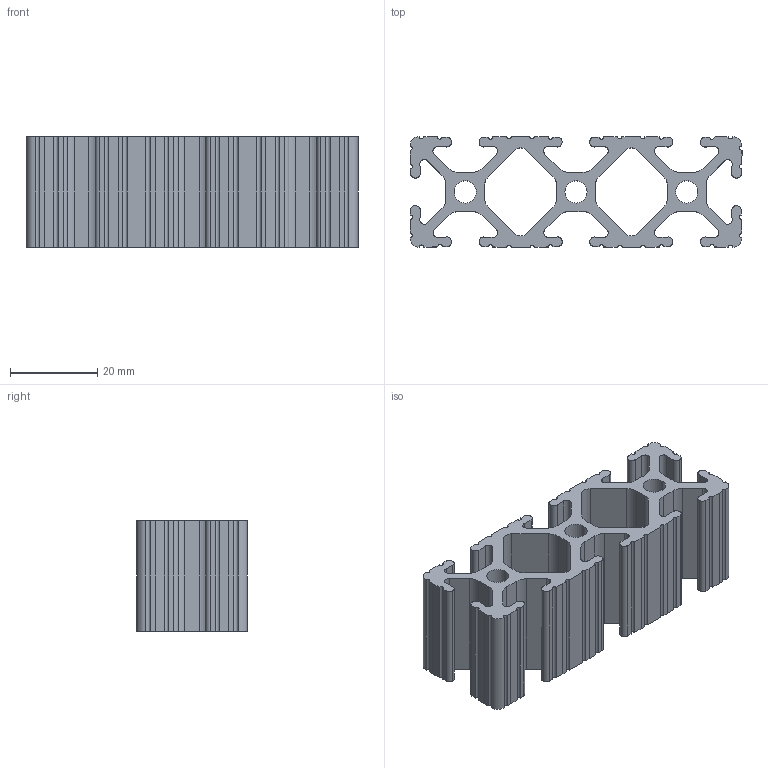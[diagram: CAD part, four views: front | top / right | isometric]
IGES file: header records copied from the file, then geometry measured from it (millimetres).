
Global section: file name: C:\Documents and Settings\Administrator\Desktop\Transfer Temp\8020-1030.igs; native system: AutoDesk Inventor R2.0 ; preprocessor: AutoDesk Inventor Iges Exporter R2.0; author: No Author specified; organization: No Organization specified; date: 20011227.204227; units: inch
Bounding box: 76.2 x 25.4 x 25.4 mm (x, y, z)
Surface area: 16135.3 mm2 (no closed solid volume)
Topology: 0 solids, 0 shells, 226 faces, 1344 edges, 1344 vertices
Faces by surface type: revolution 120, bspline 106
